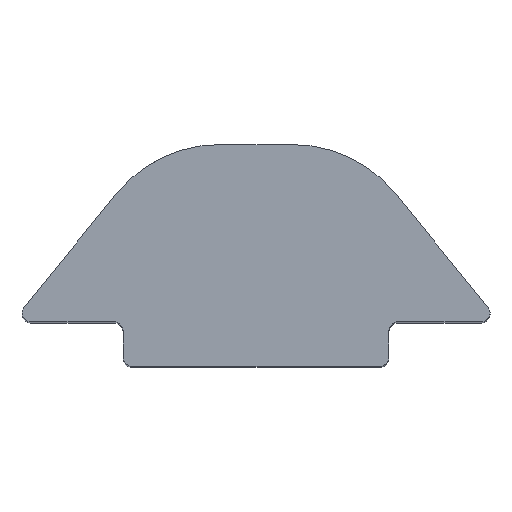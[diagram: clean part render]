
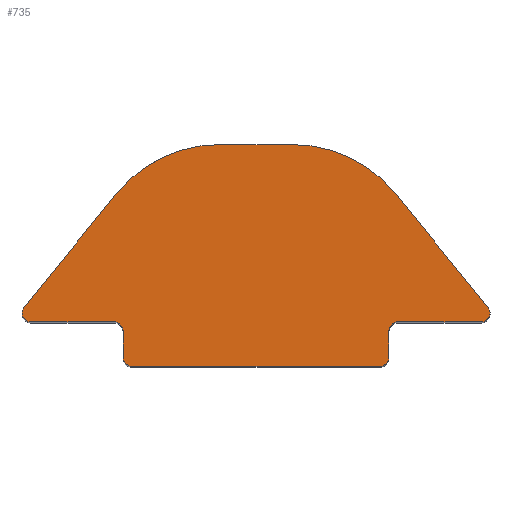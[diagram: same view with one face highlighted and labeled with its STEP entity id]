
A CAD part, top view. The second image highlights one B-rep face of the part: STEP entity #735.
In plain terms, the highlighted planar face has unit normal (0, 0, 1).
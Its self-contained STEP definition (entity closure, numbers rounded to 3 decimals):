
#1 = CARTESIAN_POINT ( 'NONE',  ( 3.2, 0.8, 0. ) ) ;
#5 = ORIENTED_EDGE ( 'NONE', *, *, #107, .T. ) ;
#15 = VECTOR ( 'NONE', #723, 1000. ) ;
#17 = ORIENTED_EDGE ( 'NONE', *, *, #248, .T. ) ;
#21 = CARTESIAN_POINT ( 'NONE',  ( 2.8, 0.2, 0. ) ) ;
#23 = ORIENTED_EDGE ( 'NONE', *, *, #171, .T. ) ;
#32 = CARTESIAN_POINT ( 'NONE',  ( -3., 0.8, 0. ) ) ;
#39 = DIRECTION ( 'NONE',  ( 0., 0., -1. ) ) ;
#44 = CARTESIAN_POINT ( 'NONE',  ( -2.25, 5., 0. ) ) ;
#47 = DIRECTION ( 'NONE',  ( 0., 0., 1. ) ) ;
#55 = DIRECTION ( 'NONE',  ( 1., 0., 0. ) ) ;
#63 = VERTEX_POINT ( 'NONE', #553 ) ;
#73 = VERTEX_POINT ( 'NONE', #483 ) ;
#86 = EDGE_CURVE ( 'NONE', #490, #403, #234, .T. ) ;
#89 = DIRECTION ( 'NONE',  ( 1., 0., 0. ) ) ;
#93 = FACE_OUTER_BOUND ( 'NONE', #646, .T. ) ;
#97 = CARTESIAN_POINT ( 'NONE',  ( 3., 0., 0. ) ) ;
#107 = EDGE_CURVE ( 'NONE', #300, #488, #816, .T. ) ;
#108 = DIRECTION ( 'NONE',  ( 0., 0., 1. ) ) ;
#112 = DIRECTION ( 'NONE',  ( 1., 0., 0. ) ) ;
#117 = DIRECTION ( 'NONE',  ( 0., 0., 1. ) ) ;
#118 = PLANE ( 'NONE',  #581 ) ;
#120 = CARTESIAN_POINT ( 'NONE',  ( -5.235, 1.326, 0. ) ) ;
#122 = ORIENTED_EDGE ( 'NONE', *, *, #226, .T. ) ;
#142 = VERTEX_POINT ( 'NONE', #32 ) ;
#144 = CIRCLE ( 'NONE', #510, 0.2 ) ;
#171 = EDGE_CURVE ( 'NONE', #645, #63, #624, .T. ) ;
#173 = AXIS2_PLACEMENT_3D ( 'NONE', #780, #652, #196 ) ;
#174 = DIRECTION ( 'NONE',  ( 1., 0., 0. ) ) ;
#175 = ORIENTED_EDGE ( 'NONE', *, *, #444, .T. ) ;
#177 = VERTEX_POINT ( 'NONE', #243 ) ;
#190 = CARTESIAN_POINT ( 'NONE',  ( -2.8, 0., 0. ) ) ;
#195 = DIRECTION ( 'NONE',  ( 1., 0., 0. ) ) ;
#196 = DIRECTION ( 'NONE',  ( 1., 0., 0. ) ) ;
#197 = DIRECTION ( 'NONE',  ( 1., 0., 0. ) ) ;
#208 = ORIENTED_EDGE ( 'NONE', *, *, #308, .T. ) ;
#209 = DIRECTION ( 'NONE',  ( 0., -1., 0. ) ) ;
#214 = CARTESIAN_POINT ( 'NONE',  ( 3.2, 1., 0. ) ) ;
#217 = CARTESIAN_POINT ( 'NONE',  ( 3., 0.2, 0. ) ) ;
#224 = DIRECTION ( 'NONE',  ( -0.631, -0.776, 0. ) ) ;
#225 = VERTEX_POINT ( 'NONE', #190 ) ;
#226 = EDGE_CURVE ( 'NONE', #488, #418, #405, .T. ) ;
#230 = VERTEX_POINT ( 'NONE', #580 ) ;
#234 = LINE ( 'NONE', #97, #799 ) ;
#237 = EDGE_CURVE ( 'NONE', #63, #230, #436, .T. ) ;
#238 = CARTESIAN_POINT ( 'NONE',  ( 5.5, 1., 0. ) ) ;
#243 = CARTESIAN_POINT ( 'NONE',  ( 5.235, 1.326, 0. ) ) ;
#248 = EDGE_CURVE ( 'NONE', #475, #73, #583, .T. ) ;
#269 = CARTESIAN_POINT ( 'NONE',  ( 3., 1., 0. ) ) ;
#280 = EDGE_CURVE ( 'NONE', #73, #177, #413, .T. ) ;
#281 = VECTOR ( 'NONE', #322, 1000. ) ;
#291 = ORIENTED_EDGE ( 'NONE', *, *, #626, .T. ) ;
#300 = VERTEX_POINT ( 'NONE', #120 ) ;
#301 = CARTESIAN_POINT ( 'NONE',  ( -3.2, 0.8, 0. ) ) ;
#308 = EDGE_CURVE ( 'NONE', #364, #475, #477, .T. ) ;
#309 = CIRCLE ( 'NONE', #526, 0.2 ) ;
#314 = DIRECTION ( 'NONE',  ( 0., 1., 0. ) ) ;
#322 = DIRECTION ( 'NONE',  ( 1., 0., 0. ) ) ;
#323 = ORIENTED_EDGE ( 'NONE', *, *, #591, .T. ) ;
#325 = EDGE_CURVE ( 'NONE', #230, #730, #665, .T. ) ;
#331 = EDGE_CURVE ( 'NONE', #403, #364, #342, .T. ) ;
#341 = CARTESIAN_POINT ( 'NONE',  ( 3., 0.8, 0. ) ) ;
#342 = CIRCLE ( 'NONE', #651, 0.2 ) ;
#348 = CARTESIAN_POINT ( 'NONE',  ( -5.08, 1., 0. ) ) ;
#354 = ORIENTED_EDGE ( 'NONE', *, *, #86, .T. ) ;
#361 = DIRECTION ( 'NONE',  ( 1., 0., 0. ) ) ;
#364 = VERTEX_POINT ( 'NONE', #214 ) ;
#365 = AXIS2_PLACEMENT_3D ( 'NONE', #382, #117, #174 ) ;
#369 = AXIS2_PLACEMENT_3D ( 'NONE', #707, #381, #112 ) ;
#371 = CARTESIAN_POINT ( 'NONE',  ( 3.15, 3.892, 0. ) ) ;
#381 = DIRECTION ( 'NONE',  ( 0., 0., 1. ) ) ;
#382 = CARTESIAN_POINT ( 'NONE',  ( -5.08, 1.2, 0. ) ) ;
#387 = VECTOR ( 'NONE', #497, 1000. ) ;
#398 = AXIS2_PLACEMENT_3D ( 'NONE', #458, #448, #55 ) ;
#402 = CARTESIAN_POINT ( 'NONE',  ( -3.2, 1., 0. ) ) ;
#403 = VERTEX_POINT ( 'NONE', #341 ) ;
#405 = LINE ( 'NONE', #428, #281 ) ;
#413 = CIRCLE ( 'NONE', #173, 0.2 ) ;
#416 = LINE ( 'NONE', #534, #774 ) ;
#418 = VERTEX_POINT ( 'NONE', #402 ) ;
#427 = ORIENTED_EDGE ( 'NONE', *, *, #237, .T. ) ;
#428 = CARTESIAN_POINT ( 'NONE',  ( -3., 1., 0. ) ) ;
#436 = LINE ( 'NONE', #44, #15 ) ;
#440 = ORIENTED_EDGE ( 'NONE', *, *, #325, .T. ) ;
#444 = EDGE_CURVE ( 'NONE', #142, #672, #416, .T. ) ;
#445 = VECTOR ( 'NONE', #224, 1000. ) ;
#448 = DIRECTION ( 'NONE',  ( 0., 0., 1. ) ) ;
#456 = AXIS2_PLACEMENT_3D ( 'NONE', #556, #108, #508 ) ;
#458 = CARTESIAN_POINT ( 'NONE',  ( -0.822, 2., 0. ) ) ;
#466 = EDGE_CURVE ( 'NONE', #730, #300, #569, .T. ) ;
#467 = ORIENTED_EDGE ( 'NONE', *, *, #755, .T. ) ;
#475 = VERTEX_POINT ( 'NONE', #491 ) ;
#477 = LINE ( 'NONE', #269, #683 ) ;
#483 = CARTESIAN_POINT ( 'NONE',  ( 5.28, 1.2, 0. ) ) ;
#488 = VERTEX_POINT ( 'NONE', #348 ) ;
#490 = VERTEX_POINT ( 'NONE', #217 ) ;
#491 = CARTESIAN_POINT ( 'NONE',  ( 5.08, 1., 0. ) ) ;
#497 = DIRECTION ( 'NONE',  ( 1., 0., 0. ) ) ;
#499 = CARTESIAN_POINT ( 'NONE',  ( -3., 0.2, 0. ) ) ;
#506 = EDGE_CURVE ( 'NONE', #632, #490, #309, .T. ) ;
#508 = DIRECTION ( 'NONE',  ( 1., 0., 0. ) ) ;
#510 = AXIS2_PLACEMENT_3D ( 'NONE', #301, #39, #361 ) ;
#526 = AXIS2_PLACEMENT_3D ( 'NONE', #21, #744, #89 ) ;
#534 = CARTESIAN_POINT ( 'NONE',  ( -3., 0., 0. ) ) ;
#547 = ORIENTED_EDGE ( 'NONE', *, *, #331, .T. ) ;
#553 = CARTESIAN_POINT ( 'NONE',  ( 0.822, 5., 0. ) ) ;
#554 = AXIS2_PLACEMENT_3D ( 'NONE', #835, #769, #778 ) ;
#556 = CARTESIAN_POINT ( 'NONE',  ( 0.822, 2., 0. ) ) ;
#569 = LINE ( 'NONE', #608, #445 ) ;
#577 = CARTESIAN_POINT ( 'NONE',  ( 0., 0., 0. ) ) ;
#579 = CARTESIAN_POINT ( 'NONE',  ( -3.15, 3.892, 0. ) ) ;
#580 = CARTESIAN_POINT ( 'NONE',  ( -0.822, 5., 0. ) ) ;
#581 = AXIS2_PLACEMENT_3D ( 'NONE', #577, #47, #195 ) ;
#583 = CIRCLE ( 'NONE', #554, 0.2 ) ;
#584 = DIRECTION ( 'NONE',  ( 0., 0., -1. ) ) ;
#591 = EDGE_CURVE ( 'NONE', #177, #645, #630, .T. ) ;
#593 = VECTOR ( 'NONE', #818, 1000. ) ;
#608 = CARTESIAN_POINT ( 'NONE',  ( -5.5, 1., 0. ) ) ;
#616 = CARTESIAN_POINT ( 'NONE',  ( -3., 0., 0. ) ) ;
#622 = ORIENTED_EDGE ( 'NONE', *, *, #506, .T. ) ;
#624 = CIRCLE ( 'NONE', #456, 3. ) ;
#626 = EDGE_CURVE ( 'NONE', #418, #142, #144, .T. ) ;
#627 = CARTESIAN_POINT ( 'NONE',  ( 2.8, 0., 0. ) ) ;
#630 = LINE ( 'NONE', #238, #593 ) ;
#632 = VERTEX_POINT ( 'NONE', #627 ) ;
#645 = VERTEX_POINT ( 'NONE', #371 ) ;
#646 = EDGE_LOOP ( 'NONE', ( #175, #467, #706, #622, #354, #547, #208, #17, #750, #323, #23, #427, #440, #822, #5, #122, #291 ) ) ;
#651 = AXIS2_PLACEMENT_3D ( 'NONE', #1, #584, #197 ) ;
#652 = DIRECTION ( 'NONE',  ( 0., 0., 1. ) ) ;
#654 = CIRCLE ( 'NONE', #369, 0.2 ) ;
#665 = CIRCLE ( 'NONE', #398, 3. ) ;
#672 = VERTEX_POINT ( 'NONE', #499 ) ;
#679 = EDGE_CURVE ( 'NONE', #225, #632, #795, .T. ) ;
#683 = VECTOR ( 'NONE', #838, 1000. ) ;
#706 = ORIENTED_EDGE ( 'NONE', *, *, #679, .T. ) ;
#707 = CARTESIAN_POINT ( 'NONE',  ( -2.8, 0.2, 0. ) ) ;
#723 = DIRECTION ( 'NONE',  ( -1., 0., 0. ) ) ;
#730 = VERTEX_POINT ( 'NONE', #579 ) ;
#735 = ADVANCED_FACE ( 'NONE', ( #93 ), #118, .T. ) ;
#744 = DIRECTION ( 'NONE',  ( 0., 0., 1. ) ) ;
#750 = ORIENTED_EDGE ( 'NONE', *, *, #280, .T. ) ;
#755 = EDGE_CURVE ( 'NONE', #672, #225, #654, .T. ) ;
#769 = DIRECTION ( 'NONE',  ( 0., 0., 1. ) ) ;
#774 = VECTOR ( 'NONE', #209, 1000. ) ;
#778 = DIRECTION ( 'NONE',  ( 1., 0., 0. ) ) ;
#780 = CARTESIAN_POINT ( 'NONE',  ( 5.08, 1.2, 0. ) ) ;
#795 = LINE ( 'NONE', #616, #387 ) ;
#799 = VECTOR ( 'NONE', #314, 1000. ) ;
#816 = CIRCLE ( 'NONE', #365, 0.2 ) ;
#818 = DIRECTION ( 'NONE',  ( -0.631, 0.776, 0. ) ) ;
#822 = ORIENTED_EDGE ( 'NONE', *, *, #466, .T. ) ;
#835 = CARTESIAN_POINT ( 'NONE',  ( 5.08, 1.2, 0. ) ) ;
#838 = DIRECTION ( 'NONE',  ( 1., 0., 0. ) ) ;
